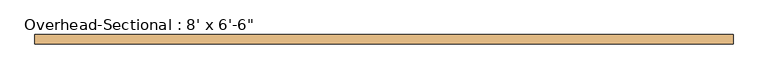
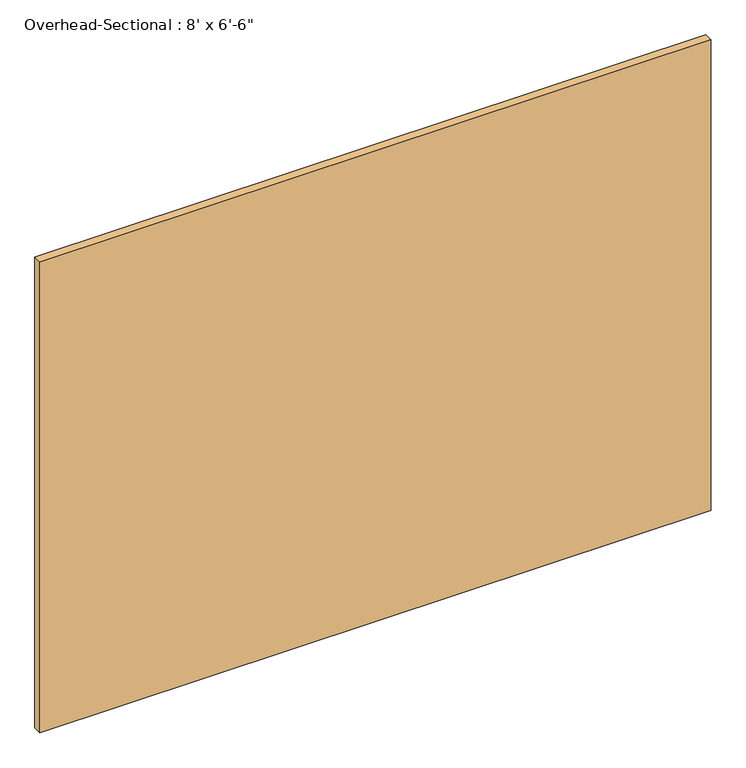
"""IFC4 building model written with IfcOpenShell, lengths in millimetres: door geometry."""

from ifc_helpers import new_model, si_unit, origin, origin_with_axes, place, context, project, spatial, polyline, outline, extrude, source, transform, mapped, element, save


def door_55943ef8(model_context):
    return source(origin(), model_context, "Body", "SweptSolid", [
        extrude(outline(polyline([(1454.15, 101.6), (-1454.15, 101.6), (-1454.15, 139.7), (1454.15, 139.7), (1454.15, 101.6)])), origin_with_axes(), (0.0, 0.0, 1.0), 2157.4125),
    ])


if __name__ == "__main__":
    model = new_model("IFC4")
    model_context = context("Model", 3, world=origin())
    ifc_project = project(units=[si_unit("LENGTHUNIT", "METRE", prefix="MILLI")], contexts=[model_context])
    site = spatial("IfcSite", under=ifc_project)
    building = spatial("IfcBuilding", under=site)
    placement = place(None, origin())
    door_shape = door_55943ef8(model_context)
    element("IfcDoor", 1, ObjectType="Overhead-Sectional : 8' x 6'-6\"", at=placement, inside=building, context=model_context, shape_type="MappedRepresentation", body=[
        mapped(door_shape, transform((0.0, 0.0, 0.0), x_axis=(1.0, 0.0, 0.0), y_axis=(0.0, 1.0, 0.0), z_axis=(0.0, 0.0, 1.0))),
    ])
    save(model, "model.ifc")
